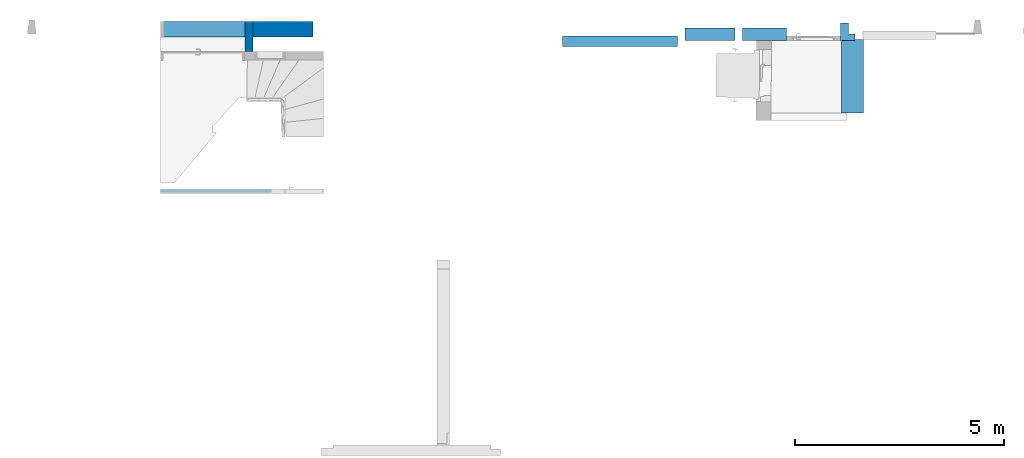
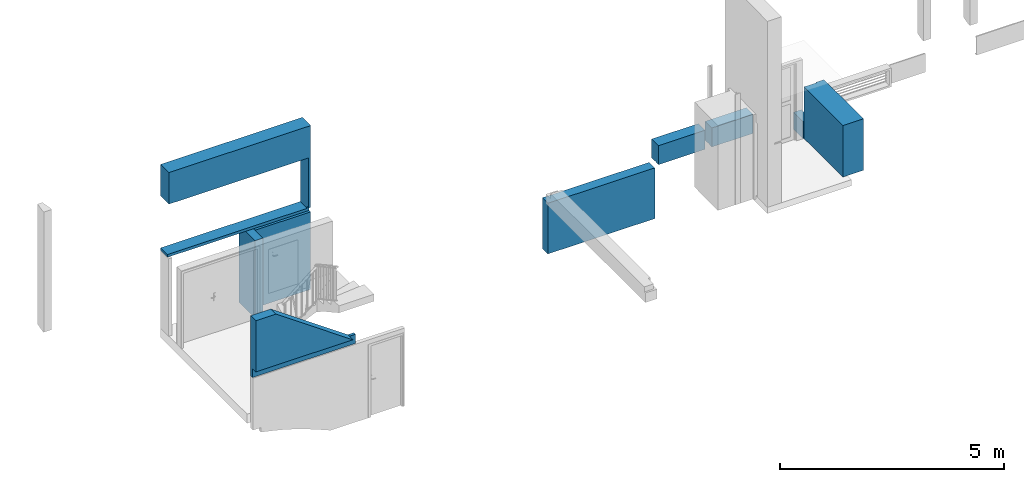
# One storey, part 3 of 13: 9 walls, 2 openings.
"""IFC4 building model written with IfcOpenShell, lengths in metres."""

from ifc_helpers import new_model, entity, si_unit, converted_unit, derived_unit, direction, frame, origin, place, context, subcontext, project, spatial, indexed_curve, outline, extrude, polygons, material, layer, layer_set, type_object, element, save


model = new_model("IFC4")

# Units and contexts
model_context = context("Model", 3, precision=1e-05, world=origin(), true_north=direction((6.12303176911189e-17, 1.0)))
body_context = subcontext(model_context, "Body", "Model", "MODEL_VIEW")
ifc_project = project(units=[si_unit("LENGTHUNIT", "METRE"), si_unit("AREAUNIT", "SQUARE_METRE"), si_unit("VOLUMEUNIT", "CUBIC_METRE"), converted_unit("PLANEANGLEUNIT", "DEGREE", entity("IfcRatioMeasure", 0.0174532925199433), si_unit("PLANEANGLEUNIT", "RADIAN"), dimensions=[0, 0, 0, 0, 0, 0, 0]), si_unit("MASSUNIT", "GRAM", prefix="KILO"), derived_unit("MASSDENSITYUNIT", [(si_unit("MASSUNIT", "GRAM", prefix="KILO"), 1), (si_unit("LENGTHUNIT", "METRE"), -3)]), derived_unit("MOMENTOFINERTIAUNIT", [(si_unit("LENGTHUNIT", "METRE"), 4)]), si_unit("TIMEUNIT", "SECOND"), si_unit("FREQUENCYUNIT", "HERTZ"), si_unit("THERMODYNAMICTEMPERATUREUNIT", "DEGREE_CELSIUS"), derived_unit("THERMALTRANSMITTANCEUNIT", [(si_unit("MASSUNIT", "GRAM", prefix="KILO"), 1), (si_unit("THERMODYNAMICTEMPERATUREUNIT", "KELVIN"), -1), (si_unit("TIMEUNIT", "SECOND"), -3)]), derived_unit("VOLUMETRICFLOWRATEUNIT", [(si_unit("LENGTHUNIT", "METRE"), 3), (si_unit("TIMEUNIT", "SECOND"), -1)]), si_unit("ELECTRICCURRENTUNIT", "AMPERE"), si_unit("ELECTRICVOLTAGEUNIT", "VOLT"), si_unit("POWERUNIT", "WATT"), si_unit("FORCEUNIT", "NEWTON", prefix="KILO"), si_unit("ILLUMINANCEUNIT", "LUX"), si_unit("LUMINOUSFLUXUNIT", "LUMEN"), si_unit("LUMINOUSINTENSITYUNIT", "CANDELA"), derived_unit("USERDEFINED", [(si_unit("MASSUNIT", "GRAM", prefix="KILO"), -1), (si_unit("LENGTHUNIT", "METRE"), -2), (si_unit("TIMEUNIT", "SECOND"), 3), (si_unit("LUMINOUSFLUXUNIT", "LUMEN"), 1)]), derived_unit("LINEARVELOCITYUNIT", [(si_unit("LENGTHUNIT", "METRE"), 1), (si_unit("TIMEUNIT", "SECOND"), -1)]), si_unit("PRESSUREUNIT", "PASCAL"), derived_unit("USERDEFINED", [(si_unit("LENGTHUNIT", "METRE"), -2), (si_unit("MASSUNIT", "GRAM", prefix="KILO"), 1), (si_unit("TIMEUNIT", "SECOND"), -2)]), derived_unit("LINEARFORCEUNIT", [(si_unit("MASSUNIT", "GRAM", prefix="KILO"), 1), (si_unit("LENGTHUNIT", "METRE"), 1), (si_unit("TIMEUNIT", "SECOND"), -2), (si_unit("LENGTHUNIT", "METRE"), -1)]), derived_unit("PLANARFORCEUNIT", [(si_unit("MASSUNIT", "GRAM", prefix="KILO"), 1), (si_unit("LENGTHUNIT", "METRE"), 1), (si_unit("TIMEUNIT", "SECOND"), -2), (si_unit("LENGTHUNIT", "METRE"), -2)])], contexts=[model_context])

# Site, building, storey
site_placement = place(None, origin())
site = spatial("IfcSite", under=ifc_project, at=site_placement, Name="Default", CompositionType="ELEMENT")
building_placement = place(site_placement, origin())
building = spatial("IfcBuilding", under=site, at=building_placement, Name="HOTEL CONSULAIRE BOULOGNE SUR MER", CompositionType="ELEMENT")
storey_placement = place(building_placement, frame((0.0, 0.0, -1.40419978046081)))
storey = spatial("IfcBuildingStorey", under=building, at=storey_placement, Name="Demi-niveau", CompositionType="ELEMENT", Elevation=-1.40419978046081)

# Wall
ifc_material = material(Name="Mur par défaut", Category="Divers")
ifc_layer_1 = layer(ifc_material, 0.53, Name="Mur par défaut", Category="Divers")
ifc_layer_set_1 = layer_set([ifc_layer_1], Name="Mur de base:Générique - Int.530")
wall_type_1 = type_object("IfcWallType", Name="Mur de base:Générique - Int.530", PredefinedType="NOTDEFINED", material=ifc_layer_set_1)
wall_1_placement = place(storey_placement, frame((11.3961975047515, -11.9707913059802, -0.2674), z_axis=(0.0, 0.0, 1.0), x_axis=(0.0, 1.0, 0.0)))
element("IfcWall", 1, at=wall_1_placement, inside=storey, type_object=wall_type_1, material=ifc_layer_set_1, Name="Mur de base:Générique - Int.530", ObjectType="Mur de base:Générique - Int.530", PredefinedType="NOTDEFINED", context=body_context, shape_type="SweptSolid", body=[
    extrude(outline(indexed_curve([(1.75677393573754, -0.265), (1.75677393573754, -0.064761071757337), (1.73646714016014, -0.064761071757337), (1.73646714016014, 0.265), (2.16573425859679e-15, 0.265), (0.0, -0.265), (0.348111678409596, -0.265), (0.548111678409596, -0.265), (1.10247811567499, -0.265), (1.32247811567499, -0.265), (1.75677393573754, -0.265)], self_intersect=False)), origin(), (0.0, 0.0, 1.0), 1.40159978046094),
])

# Wall, opening
ifc_layer_2 = layer(ifc_material, 0.37, Name="Mur par défaut", Category="Divers")
ifc_layer_set_2 = layer_set([ifc_layer_2], Name="Mur de base:Générique - Ext.370")
wall_type_2 = type_object("IfcWallType", Name="Mur de base:Générique - Ext.370", PredefinedType="NOTDEFINED", material=ifc_layer_set_2)
wall_2_placement = place(storey_placement, frame((-5.15977317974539, -9.96532416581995, 2.10972920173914)))
wall_2 = element("IfcWall", 2, at=wall_2_placement, inside=storey, type_object=wall_type_2, material=ifc_layer_set_2, Name="Mur de base:Générique - Ext.370", ObjectType="Mur de base:Générique - Ext.370", PredefinedType="NOTDEFINED", context=body_context, shape_type="Tessellation", body=[
    polygons([(1.91212739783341e-15, 0.184999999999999, 0.0742045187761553), (1.91212739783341e-15, 0.184999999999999, -2.70716782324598e-16), (2.03430593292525e-15, -0.119308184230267, -2.70716782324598e-16), (2.03430593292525e-15, -0.119308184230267, 0.0742045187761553), (3.64879251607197, -0.185000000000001, 2.3455753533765), (2.29444234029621e-15, -0.185000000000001, 2.3455753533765), (2.29444234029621e-15, -0.185000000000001, 1.48547057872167), (3.59795187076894, -0.185000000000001, 1.48547057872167), (3.59795187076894, -0.185000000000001, 0.12), (3.64879251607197, -0.185000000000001, 0.12), (3.64879251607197, 0.184999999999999, -2.70716782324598e-16), (3.59795187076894, 0.184999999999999, 0.0742045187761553), (3.59795187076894, 0.184999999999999, 1.48547057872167), (8.29260268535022e-16, 0.184999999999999, 1.48547057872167), (8.29260268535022e-16, 0.184999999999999, 2.3455753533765), (3.64879251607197, 0.184999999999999, 2.3455753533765), (3.64879251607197, -0.119308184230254, -2.70716782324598e-16), (3.64879251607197, -0.119308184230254, 0.12), (3.59795187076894, -0.119308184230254, 0.0742045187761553), (3.59795187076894, -0.119308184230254, 0.12)], [[[3, 4, 1, 2]], [[7, 6, 15, 14]], [[20, 9, 8, 13, 12, 19]], [[6, 7, 8, 9, 10, 5]], [[19, 4, 3, 17, 18, 20]], [[11, 2, 1, 12, 13, 14, 15, 16]], [[17, 3, 2, 11]], [[7, 14, 13, 8]], [[10, 9, 20, 18]], [[18, 17, 11, 16, 5, 10]], [[6, 5, 16, 15]], [[19, 12, 1, 4]]], closed=True),
])
opening_1_placement = place(wall_2_placement, frame((0.0, -0.337400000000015, 0.0742045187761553)))
element("IfcOpeningElement", 3, at=opening_1_placement, cuts=wall_2, Name="Mur de base:Générique - Ext.370", ObjectType="Opening", PredefinedType="OPENING", context=body_context, shape_type="SweptSolid", body=[
    extrude(outline(indexed_curve([(-0.705633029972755, -1.79897593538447), (0.705633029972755, -1.79897593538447), (0.705633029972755, 1.79897593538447), (-0.705633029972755, 1.79897593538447), (-0.705633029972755, -1.79897593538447)], self_intersect=False)), frame((1.79897593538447, 0.0, 0.705633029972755), z_axis=(0.0, 1.0, 0.0), x_axis=(0.0, 0.0, 1.0)), (0.0, 0.0, 1.0), 0.6748),
])

# Walls
wall_3_placement = place(storey_placement, frame((-2.94472906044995, -9.96532416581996, 0.0)))
element("IfcWall", 4, at=wall_3_placement, inside=storey, type_object=wall_type_2, material=ifc_layer_set_2, Name="Mur de base:Générique - Ext.370", ObjectType="Mur de base:Générique - Ext.370", PredefinedType="NOTDEFINED", context=body_context, shape_type="SweptSolid", body=[
    extrude(outline(indexed_curve([(1.43374839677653, 0.185), (-7.32591035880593e-16, 0.184999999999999), (7.32591035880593e-16, -0.184999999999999), (1.43374839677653, -0.184999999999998), (1.43374839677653, 0.185)], self_intersect=False)), origin(), (0.0, 0.0, 1.0), 2.10972920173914),
])
ifc_layer_3 = layer(ifc_material, 0.3, Name="Mur par défaut", Category="Divers")
ifc_layer_set_3 = layer_set([ifc_layer_3], Name="Mur de base:Générique - Ext. 300 mm")
wall_type_3 = type_object("IfcWallType", Name="Mur de base:Générique - Ext. 300 mm", PredefinedType="NOTDEFINED", material=ifc_layer_set_3)
wall_4_placement = place(storey_placement, frame((7.38692824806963, -10.08432416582, 0.327021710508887)))
element("IfcWall", 5, at=wall_4_placement, inside=storey, type_object=wall_type_3, material=ifc_layer_set_3, Name="Mur de base:Générique - Ext. 300 mm", ObjectType="Mur de base:Générique - Ext. 300 mm", PredefinedType="NOTDEFINED", context=body_context, shape_type="Tessellation", body=[
    polygons([(1.65955045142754e-16, 0.150000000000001, 0.0), (1.19859411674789, 0.150000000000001, 0.0), (1.19859411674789, 0.0988221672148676, 0.0), (3.50901031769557e-16, 0.0988221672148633, 0.0), (1.67225187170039e-16, -0.149999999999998, 0.0), (1.19859411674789, -0.149999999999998, 0.0), (1.19859411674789, -0.149999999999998, 0.516130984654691), (1.67225187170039e-16, -0.149999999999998, 0.516130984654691), (1.65955045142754e-16, 0.150000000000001, 0.516130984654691), (1.19859411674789, 0.150000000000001, 0.516130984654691), (-1.94153903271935e-16, -0.0499999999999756, 0.0), (1.19859411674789, -0.0499999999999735, 0.0), (1.19859411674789, -0.0499999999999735, 0.0156418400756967), (-1.94153903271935e-16, -0.0499999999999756, 0.0156418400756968)], [[[3, 4, 1, 2]], [[6, 5, 11, 12]], [[8, 5, 6, 7]], [[10, 2, 1, 9]], [[12, 11, 14, 13]], [[13, 3, 2, 10, 7, 6, 12]], [[8, 7, 10, 9]], [[11, 5, 8, 9, 1, 4, 14]], [[13, 14, 4, 3]]], closed=True),
])
wall_5_placement = place(storey_placement, frame((8.76342269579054, -10.08432416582, 0.327021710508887)))
element("IfcWall", 6, at=wall_5_placement, inside=storey, type_object=wall_type_3, material=ifc_layer_set_3, Name="Mur de base:Générique - Ext. 300 mm", ObjectType="Mur de base:Générique - Ext. 300 mm", PredefinedType="NOTDEFINED", context=body_context, shape_type="Tessellation", body=[
    polygons([(1.65955045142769e-16, 0.150000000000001, 0.0), (1.06200138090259, 0.149999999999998, 0.0), (1.06200138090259, 0.0988221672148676, 0.0), (3.50901031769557e-16, 0.0988221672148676, 0.0), (1.67225187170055e-16, -0.149999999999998, 0.0), (1.06200138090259, -0.150000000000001, 0.0), (1.06200138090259, -0.150000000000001, 0.516130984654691), (1.67225187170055e-16, -0.149999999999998, 0.516130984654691), (1.65955045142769e-16, 0.150000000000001, 0.516130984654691), (1.06200138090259, 0.149999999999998, 0.516130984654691), (-1.94153903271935e-16, -0.0499999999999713, 0.0), (1.06200138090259, -0.0499999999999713, 0.0), (1.06200138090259, -0.0499999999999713, 0.0156418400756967), (-1.94153903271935e-16, -0.0499999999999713, 0.0156418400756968)], [[[3, 4, 1, 2]], [[6, 5, 11, 12]], [[8, 5, 6, 7]], [[10, 2, 1, 9]], [[12, 11, 14, 13]], [[13, 3, 2, 10, 7, 6, 12]], [[8, 7, 10, 9]], [[11, 5, 8, 9, 1, 4, 14]], [[13, 14, 4, 3]]], closed=True),
])
ifc_layer_4 = layer(ifc_material, 0.2, Name="Mur par défaut", Category="Divers")
ifc_layer_set_4 = layer_set([ifc_layer_4], Name="Mur de base:Générique - Ext. 200 mm")
wall_type_4 = type_object("IfcWallType", Name="Mur de base:Générique - Ext. 200 mm", PredefinedType="NOTDEFINED", material=ifc_layer_set_4)
wall_6_placement = place(storey_placement, frame((-3.04472906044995, -10.5027043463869, 0.0), z_axis=(0.0, 0.0, 1.0), x_axis=(0.0, 1.0, 0.0)))
element("IfcWall", 7, at=wall_6_placement, inside=storey, type_object=wall_type_4, material=ifc_layer_set_4, Name="Mur de base:Générique - Ext. 200 mm", ObjectType="Mur de base:Générique - Ext. 200 mm", PredefinedType="NOTDEFINED", context=body_context, shape_type="SweptSolid", body=[
    extrude(outline(indexed_curve([(0.722380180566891, 0.0999999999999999), (-1.34574191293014e-16, 0.1), (1.34574191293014e-16, -0.1), (0.722380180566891, -0.1), (0.722380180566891, 0.0999999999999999)], self_intersect=False)), origin(), (0.0, 0.0, 1.0), 2.10972920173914),
])
ifc_layer_5 = layer(ifc_material, 0.42, Name="Mur par défaut", Category="Divers")
ifc_layer_set_5 = layer_set([ifc_layer_5], Name="Mur de base:Générique - Ext.420")
wall_type_5 = type_object("IfcWallType", Name="Mur de base:Générique - Ext.420", PredefinedType="NOTDEFINED", material=ifc_layer_set_5)
wall_7_placement = place(storey_placement, frame((11.1084859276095, -10.02432416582, -0.267375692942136)))
element("IfcWall", 8, at=wall_7_placement, inside=storey, type_object=wall_type_5, material=ifc_layer_set_5, Name="Mur de base:Générique - Ext.420", ObjectType="Mur de base:Générique - Ext.420", PredefinedType="NOTDEFINED", context=body_context, shape_type="Tessellation", body=[
    polygons([(-6.2152311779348e-16, -0.21, 5.41433564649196e-16), (0.022711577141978, -0.21, 5.41433564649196e-16), (0.142157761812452, -0.21, 5.41433564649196e-16), (0.352472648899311, -0.21, 5.41433564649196e-16), (0.352472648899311, -0.21, 0.466375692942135), (0.0227115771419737, -0.21, 0.466375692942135), (-6.2152311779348e-16, -0.21, 0.466375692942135), (-1.18968508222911e-16, 0.21, 5.41433564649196e-16), (-1.18968508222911e-16, 0.21, 0.466375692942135), (0.198152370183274, 0.21, 0.466375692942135), (0.198152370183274, 0.21, 5.41433564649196e-16), (-1.01751827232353e-15, -0.110000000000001, 5.41433564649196e-16), (0.198152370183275, -0.0603081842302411, 5.41433564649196e-16), (0.352472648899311, -0.0603081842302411, 5.41433564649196e-16), (0.352472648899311, -0.189693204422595, 5.41433564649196e-16), (0.352472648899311, -0.189693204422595, 0.466375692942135), (0.352472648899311, -0.0603081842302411, 0.466375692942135), (0.198152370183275, -0.0603081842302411, 0.466375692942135), (-7.01937044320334e-16, -0.189693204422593, 0.466375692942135), (0.352472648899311, -0.0603081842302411, 0.465138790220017)], [[[6, 7, 1, 2, 3, 4, 5]], [[10, 11, 8, 9]], [[20, 14, 13, 18, 17]], [[12, 8, 11, 13, 14, 15, 4, 3, 2, 1]], [[19, 7, 6, 5, 16, 17, 18, 10, 9]], [[1, 7, 19, 9, 8, 12]], [[11, 10, 18, 13]], [[16, 5, 4, 15, 14, 20, 17]]], closed=True),
])
ifc_layer_6 = layer(ifc_material, 0.25, Name="Mur par défaut", Category="Divers")
ifc_layer_set_6 = layer_set([ifc_layer_6], Name="Mur de base:Générique - Int. 250 mm")
wall_type_6 = type_object("IfcWallType", Name="Mur de base:Générique - Int. 250 mm", PredefinedType="NOTDEFINED", material=ifc_layer_set_6)
wall_8_placement = place(storey_placement, frame((4.45817677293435, -10.25932416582, -0.985246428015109)))
element("IfcWall", 9, at=wall_8_placement, inside=storey, type_object=wall_type_6, material=ifc_layer_set_6, Name="Mur de base:Générique - Int. 250 mm", ObjectType="Mur de base:Générique - Int. 250 mm", PredefinedType="NOTDEFINED", context=body_context, shape_type="Tessellation", body=[
    polygons([(2.75080349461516, -0.125, 1.37924642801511), (2.65080349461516, -0.125, 1.37924642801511), (5.13903178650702e-16, -0.125, 1.37924642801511), (5.13903178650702e-16, -0.125, 0.0), (2.65080349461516, -0.125, 0.0), (2.75080349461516, -0.125, 0.0), (-4.76084707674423e-16, 0.125, 1.37924642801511), (2.75080349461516, 0.125, 1.37924642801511), (2.75080349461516, 0.125, 0.0), (-4.76084707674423e-16, 0.125, 0.0), (2.75080349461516, 0.025000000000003, 1.37924642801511), (2.75080349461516, 0.025000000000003, 0.0)], [[[3, 4, 5, 6, 1, 2]], [[8, 9, 10, 7]], [[1, 6, 12, 9, 8, 11]], [[2, 1, 11, 8, 7, 3]], [[10, 4, 3, 7]], [[12, 6, 5, 4, 10, 9]]], closed=True),
])

# Wall, opening
ifc_layer_7 = layer(ifc_material, 0.23, Name="Mur par défaut", Category="Divers")
ifc_layer_set_7 = layer_set([ifc_layer_7], Name="Mur de base:Générique - Int.230")
wall_type_7 = type_object("IfcWallType", Name="Mur de base:Générique - Int.230", PredefinedType="NOTDEFINED", material=ifc_layer_set_7)
wall_9_placement = place(storey_placement, frame((-5.1597731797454, -13.9133331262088, 1.13419978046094)))
wall_9 = element("IfcWall", 10, at=wall_9_placement, inside=storey, type_object=wall_type_7, material=ifc_layer_set_7, Name="Mur de base:Générique - Int.230", ObjectType="Mur de base:Générique - Int.230", PredefinedType="NOTDEFINED", context=body_context, shape_type="Tessellation", body=[
    polygons([(0.518882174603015, -0.115, 1.63968714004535), (2.43792122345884e-16, -0.115, 1.63968714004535), (2.43792122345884e-16, -0.115, 0.25), (2.49508967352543, -0.114999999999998, 0.249999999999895), (6.83517123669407e-16, 0.115, 1.63968714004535), (0.518882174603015, 0.115, 1.63968714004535), (2.49508967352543, 0.115000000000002, 0.249999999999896), (2.65548335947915, 0.115, 0.249999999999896), (2.65548335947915, 0.115, 0.0), (6.83517123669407e-16, 0.115, 0.0), (2.65548335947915, 0.0424189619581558, 0.0), (8.86473311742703e-16, 0.0424189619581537, 0.0), (8.86473311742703e-16, 0.0424189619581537, 0.25), (2.49508967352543, 0.0424189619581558, 0.249999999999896), (2.65548335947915, 0.0424189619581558, 0.249999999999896)], [[[2, 3, 4, 1]], [[14, 13, 12, 11, 15]], [[9, 10, 5, 6, 7, 8]], [[11, 12, 10, 9]], [[3, 13, 14, 4]], [[2, 1, 6, 5]], [[14, 15, 8, 7]], [[2, 5, 10, 12, 13, 3]], [[8, 15, 11, 9]], [[1, 4, 14, 7, 6]]], closed=True),
])
opening_2_placement = place(wall_9_placement, origin())
element("IfcOpeningElement", 11, at=opening_2_placement, cuts=wall_9, Name="Mur de base:Générique - Int.230", ObjectType="Opening", PredefinedType="OPENING", context=body_context, shape_type="SweptSolid", body=[
    extrude(outline(indexed_curve([(-0.69484357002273, -0.782390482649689), (0.694843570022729, -0.782390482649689), (0.694843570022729, 1.77049423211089), (-0.694843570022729, -0.205713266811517), (-0.69484357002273, -0.782390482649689)], self_intersect=False)), frame((2.28937640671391, 0.114999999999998, 0.944843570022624), z_axis=(0.0, -1.0, 0.0), x_axis=(0.0, 0.0, 1.0)), (0.0, 0.0, 1.0), 0.23),
])

save(model, "model.ifc")
